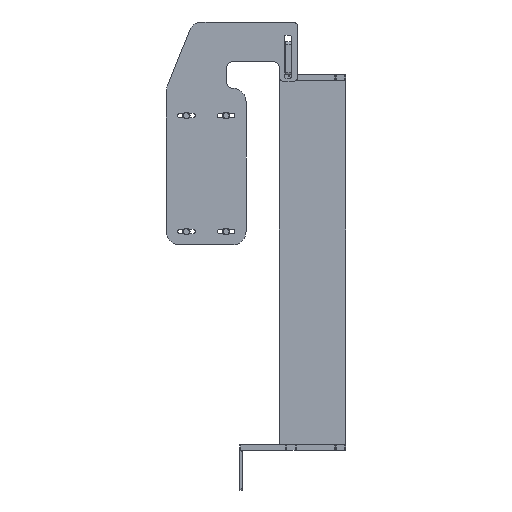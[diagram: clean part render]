
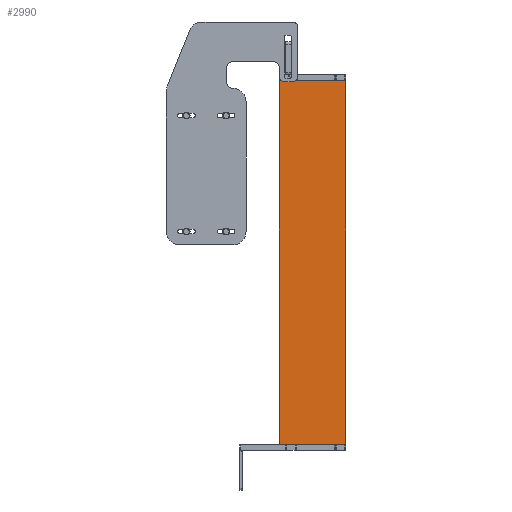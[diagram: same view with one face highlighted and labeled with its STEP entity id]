
A CAD part, left-side view. The second image highlights one B-rep face of the part: STEP entity #2990.
In plain terms, the highlighted planar face has unit normal (-1, 0, 0) as drawn and (0, 0, 1) by its records, which use the part's own axes.
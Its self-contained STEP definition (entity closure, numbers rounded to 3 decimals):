
#217=PLANE('',#3394);
#333=FACE_OUTER_BOUND('',#495,.T.);
#495=EDGE_LOOP('',(#2366,#2367,#2368,#2369,#2370,#2371,#2372,#2373));
#728=LINE('',#4911,#996);
#734=LINE('',#4926,#1002);
#736=LINE('',#4932,#1004);
#737=LINE('',#4934,#1005);
#996=VECTOR('',#3964,10.);
#1002=VECTOR('',#3980,10.);
#1004=VECTOR('',#3988,10.);
#1005=VECTOR('',#3991,10.);
#1200=CIRCLE('',#3378,1.);
#1205=CIRCLE('',#3386,1.);
#1206=CIRCLE('',#3388,1.);
#1207=CIRCLE('',#3391,1.);
#1402=VERTEX_POINT('',#4887);
#1403=VERTEX_POINT('',#4888);
#1412=VERTEX_POINT('',#4910);
#1413=VERTEX_POINT('',#4914);
#1414=VERTEX_POINT('',#4918);
#1415=VERTEX_POINT('',#4919);
#1416=VERTEX_POINT('',#4924);
#1417=VERTEX_POINT('',#4928);
#1738=EDGE_CURVE('',#1402,#1403,#1200,.T.);
#1749=EDGE_CURVE('',#1403,#1412,#728,.T.);
#1751=EDGE_CURVE('',#1412,#1413,#1205,.T.);
#1753=EDGE_CURVE('',#1414,#1415,#1206,.T.);
#1757=EDGE_CURVE('',#1416,#1414,#734,.T.);
#1758=EDGE_CURVE('',#1417,#1416,#1207,.T.);
#1760=EDGE_CURVE('',#1415,#1402,#736,.T.);
#1761=EDGE_CURVE('',#1413,#1417,#737,.T.);
#2366=ORIENTED_EDGE('',*,*,#1738,.F.);
#2367=ORIENTED_EDGE('',*,*,#1760,.F.);
#2368=ORIENTED_EDGE('',*,*,#1753,.F.);
#2369=ORIENTED_EDGE('',*,*,#1757,.F.);
#2370=ORIENTED_EDGE('',*,*,#1758,.F.);
#2371=ORIENTED_EDGE('',*,*,#1761,.F.);
#2372=ORIENTED_EDGE('',*,*,#1751,.F.);
#2373=ORIENTED_EDGE('',*,*,#1749,.F.);
#2990=ADVANCED_FACE('',(#333),#217,.T.);
#3378=AXIS2_PLACEMENT_3D('',#4889,#3944,#3945);
#3386=AXIS2_PLACEMENT_3D('',#4915,#3968,#3969);
#3388=AXIS2_PLACEMENT_3D('',#4920,#3973,#3974);
#3391=AXIS2_PLACEMENT_3D('',#4929,#3983,#3984);
#3394=AXIS2_PLACEMENT_3D('',#4935,#3992,#3993);
#3944=DIRECTION('center_axis',(0.,0.,-1.));
#3945=DIRECTION('ref_axis',(-0.707,0.707,0.));
#3964=DIRECTION('',(1.,0.,0.));
#3968=DIRECTION('center_axis',(0.,0.,-1.));
#3969=DIRECTION('ref_axis',(0.707,0.707,0.));
#3973=DIRECTION('center_axis',(0.,0.,-1.));
#3974=DIRECTION('ref_axis',(-0.707,-0.707,0.));
#3980=DIRECTION('',(-1.,0.,0.));
#3983=DIRECTION('center_axis',(0.,0.,-1.));
#3984=DIRECTION('ref_axis',(0.707,-0.707,0.));
#3988=DIRECTION('',(0.,1.,0.));
#3991=DIRECTION('',(0.,-1.,0.));
#3992=DIRECTION('center_axis',(0.,0.,1.));
#3993=DIRECTION('ref_axis',(1.,0.,0.));
#4887=CARTESIAN_POINT('',(0.,549.,8.));
#4888=CARTESIAN_POINT('',(1.,550.,8.));
#4889=CARTESIAN_POINT('Origin',(1.,549.,8.));
#4910=CARTESIAN_POINT('',(99.,550.,8.));
#4911=CARTESIAN_POINT('',(100.,550.,8.));
#4914=CARTESIAN_POINT('',(100.,549.,8.));
#4915=CARTESIAN_POINT('Origin',(99.,549.,8.));
#4918=CARTESIAN_POINT('',(1.,0.,8.));
#4919=CARTESIAN_POINT('',(0.,1.,8.));
#4920=CARTESIAN_POINT('Origin',(1.,1.,8.));
#4924=CARTESIAN_POINT('',(99.,0.,8.));
#4926=CARTESIAN_POINT('',(0.,0.,8.));
#4928=CARTESIAN_POINT('',(100.,1.,8.));
#4929=CARTESIAN_POINT('Origin',(99.,1.,8.));
#4932=CARTESIAN_POINT('',(0.,550.,8.));
#4934=CARTESIAN_POINT('',(100.,0.,8.));
#4935=CARTESIAN_POINT('Origin',(50.,275.,8.));
